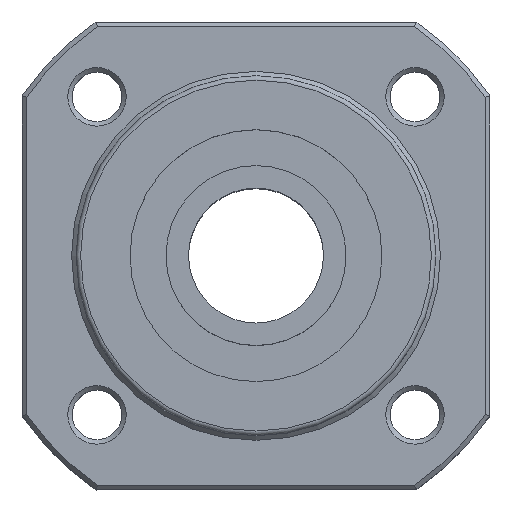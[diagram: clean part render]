
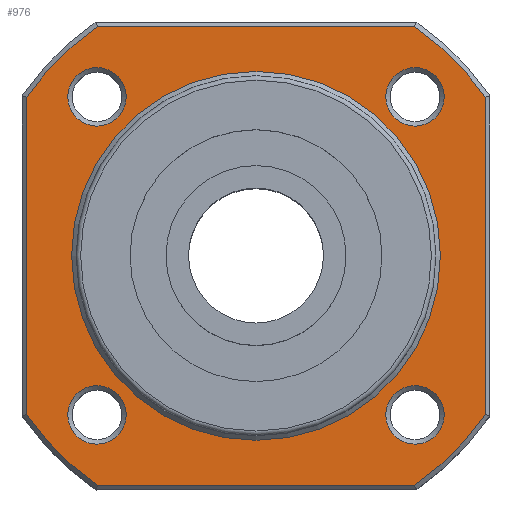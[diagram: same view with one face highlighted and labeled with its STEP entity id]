
A CAD part, top view. The second image highlights one B-rep face of the part: STEP entity #976.
In plain terms, the highlighted planar face has unit normal (0, 0, 1).
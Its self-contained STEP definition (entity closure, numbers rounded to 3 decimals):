
#611=FACE_BOUND('',#1250,.T.);
#612=FACE_BOUND('',#1251,.T.);
#613=FACE_BOUND('',#1252,.T.);
#614=FACE_BOUND('',#1253,.T.);
#615=FACE_BOUND('',#1254,.T.);
#616=FACE_BOUND('',#1255,.T.);
#747=LINE('',#3399,#811);
#748=LINE('',#3413,#812);
#749=LINE('',#3427,#813);
#750=LINE('',#3441,#814);
#811=VECTOR('',#2803,1.);
#812=VECTOR('',#2810,1.);
#813=VECTOR('',#2817,1.);
#814=VECTOR('',#2824,1.);
#976=ADVANCED_FACE('',(#611,#612,#613,#614,#615,#616),#1071,.T.);
#1071=PLANE('',#2457);
#1250=EDGE_LOOP('',(#1563,#1564,#1565,#1566,#1567,#1568,#1569,#1570));
#1251=EDGE_LOOP('',(#1571));
#1252=EDGE_LOOP('',(#1572));
#1253=EDGE_LOOP('',(#1573));
#1254=EDGE_LOOP('',(#1574));
#1255=EDGE_LOOP('',(#1575));
#1563=ORIENTED_EDGE('',*,*,#2079,.T.);
#1564=ORIENTED_EDGE('',*,*,#2081,.T.);
#1565=ORIENTED_EDGE('',*,*,#2083,.T.);
#1566=ORIENTED_EDGE('',*,*,#2085,.T.);
#1567=ORIENTED_EDGE('',*,*,#2087,.T.);
#1568=ORIENTED_EDGE('',*,*,#2089,.T.);
#1569=ORIENTED_EDGE('',*,*,#2091,.T.);
#1570=ORIENTED_EDGE('',*,*,#2076,.T.);
#1571=ORIENTED_EDGE('',*,*,#2097,.T.);
#1572=ORIENTED_EDGE('',*,*,#2095,.F.);
#1573=ORIENTED_EDGE('',*,*,#2094,.F.);
#1574=ORIENTED_EDGE('',*,*,#2093,.F.);
#1575=ORIENTED_EDGE('',*,*,#2092,.F.);
#1894=VERTEX_POINT('',#3388);
#1895=VERTEX_POINT('',#3389);
#1896=VERTEX_POINT('',#3400);
#1897=VERTEX_POINT('',#3407);
#1898=VERTEX_POINT('',#3414);
#1899=VERTEX_POINT('',#3421);
#1900=VERTEX_POINT('',#3428);
#1901=VERTEX_POINT('',#3435);
#1902=VERTEX_POINT('',#3444);
#1903=VERTEX_POINT('',#3447);
#1904=VERTEX_POINT('',#3450);
#1905=VERTEX_POINT('',#3453);
#1907=VERTEX_POINT('',#3459);
#2076=EDGE_CURVE('GENERATED CIRCLE',#1894,#1895,#2270,.T.);
#2079=EDGE_CURVE('LINE',#1895,#1896,#747,.T.);
#2081=EDGE_CURVE('GENERATED CIRCLE',#1896,#1897,#2271,.T.);
#2083=EDGE_CURVE('LINE',#1897,#1898,#748,.T.);
#2085=EDGE_CURVE('GENERATED CIRCLE',#1898,#1899,#2272,.T.);
#2087=EDGE_CURVE('LINE',#1899,#1900,#749,.T.);
#2089=EDGE_CURVE('GENERATED CIRCLE',#1900,#1901,#2273,.T.);
#2091=EDGE_CURVE('LINE',#1901,#1894,#750,.T.);
#2092=EDGE_CURVE('GENERATED CIRCLE',#1902,#1902,#2274,.T.);
#2093=EDGE_CURVE('GENERATED CIRCLE',#1903,#1903,#2275,.T.);
#2094=EDGE_CURVE('GENERATED CIRCLE',#1904,#1904,#2276,.T.);
#2095=EDGE_CURVE('GENERATED CIRCLE',#1905,#1905,#2277,.T.);
#2097=EDGE_CURVE('GENERATED CIRCLE',#1907,#1907,#2279,.T.);
#2270=CIRCLE('',#2434,31.);
#2271=CIRCLE('',#2437,31.);
#2272=CIRCLE('',#2440,31.);
#2273=CIRCLE('',#2443,31.);
#2274=CIRCLE('',#2446,3.25);
#2275=CIRCLE('',#2448,3.25);
#2276=CIRCLE('',#2450,3.25);
#2277=CIRCLE('',#2452,3.25);
#2279=CIRCLE('',#2456,20.5);
#2434=AXIS2_PLACEMENT_3D('',#3387,#2799,#2800);
#2437=AXIS2_PLACEMENT_3D('',#3406,#2806,#2807);
#2440=AXIS2_PLACEMENT_3D('',#3420,#2813,#2814);
#2443=AXIS2_PLACEMENT_3D('',#3434,#2820,#2821);
#2446=AXIS2_PLACEMENT_3D('',#3443,#2827,#2828);
#2448=AXIS2_PLACEMENT_3D('',#3446,#2831,#2832);
#2450=AXIS2_PLACEMENT_3D('',#3449,#2835,#2836);
#2452=AXIS2_PLACEMENT_3D('',#3452,#2839,#2840);
#2456=AXIS2_PLACEMENT_3D('',#3458,#2847,#2848);
#2457=AXIS2_PLACEMENT_3D('',#3460,#2849,#2850);
#2799=DIRECTION('',(0.,0.,1.));
#2800=DIRECTION('',(1.,0.,0.));
#2803=DIRECTION('',(0.,-1.,0.));
#2806=DIRECTION('',(0.,0.,1.));
#2807=DIRECTION('',(1.,0.,0.));
#2810=DIRECTION('',(1.,0.,0.));
#2813=DIRECTION('',(0.,0.,1.));
#2814=DIRECTION('',(1.,0.,0.));
#2817=DIRECTION('',(0.,1.,0.));
#2820=DIRECTION('',(0.,0.,1.));
#2821=DIRECTION('',(1.,0.,0.));
#2824=DIRECTION('',(-1.,0.,0.));
#2827=DIRECTION('',(0.,0.,1.));
#2828=DIRECTION('',(1.,0.,0.));
#2831=DIRECTION('',(0.,0.,1.));
#2832=DIRECTION('',(1.,0.,0.));
#2835=DIRECTION('',(0.,0.,1.));
#2836=DIRECTION('',(1.,0.,0.));
#2839=DIRECTION('',(0.,0.,1.));
#2840=DIRECTION('',(1.,0.,0.));
#2847=DIRECTION('',(0.,0.,-1.));
#2848=DIRECTION('',(1.,0.,0.));
#2849=DIRECTION('',(0.,0.,1.));
#2850=DIRECTION('',(-1.,0.,0.));
#3387=CARTESIAN_POINT('',(0.,0.,9.));
#3388=CARTESIAN_POINT('',(-17.628,25.5,9.));
#3389=CARTESIAN_POINT('',(-25.5,17.628,9.));
#3399=CARTESIAN_POINT('',(-25.5,0.,9.));
#3400=CARTESIAN_POINT('',(-25.5,-17.628,9.));
#3406=CARTESIAN_POINT('',(0.,0.,9.));
#3407=CARTESIAN_POINT('',(-17.628,-25.5,9.));
#3413=CARTESIAN_POINT('',(0.,-25.5,9.));
#3414=CARTESIAN_POINT('',(17.628,-25.5,9.));
#3420=CARTESIAN_POINT('',(0.,0.,9.));
#3421=CARTESIAN_POINT('',(25.5,-17.628,9.));
#3427=CARTESIAN_POINT('',(25.5,0.,9.));
#3428=CARTESIAN_POINT('',(25.5,17.628,9.));
#3434=CARTESIAN_POINT('',(0.,0.,9.));
#3435=CARTESIAN_POINT('',(17.628,25.5,9.));
#3441=CARTESIAN_POINT('',(0.,25.5,9.));
#3443=CARTESIAN_POINT('',(-17.678,17.678,9.));
#3444=CARTESIAN_POINT('',(-14.428,17.678,9.));
#3446=CARTESIAN_POINT('',(17.678,17.678,9.));
#3447=CARTESIAN_POINT('',(20.928,17.678,9.));
#3449=CARTESIAN_POINT('',(-17.678,-17.678,9.));
#3450=CARTESIAN_POINT('',(-14.428,-17.678,9.));
#3452=CARTESIAN_POINT('',(17.678,-17.678,9.));
#3453=CARTESIAN_POINT('',(20.928,-17.678,9.));
#3458=CARTESIAN_POINT('',(0.,0.,9.));
#3459=CARTESIAN_POINT('',(20.5,0.,9.));
#3460=CARTESIAN_POINT('',(0.,-31.5,9.));
